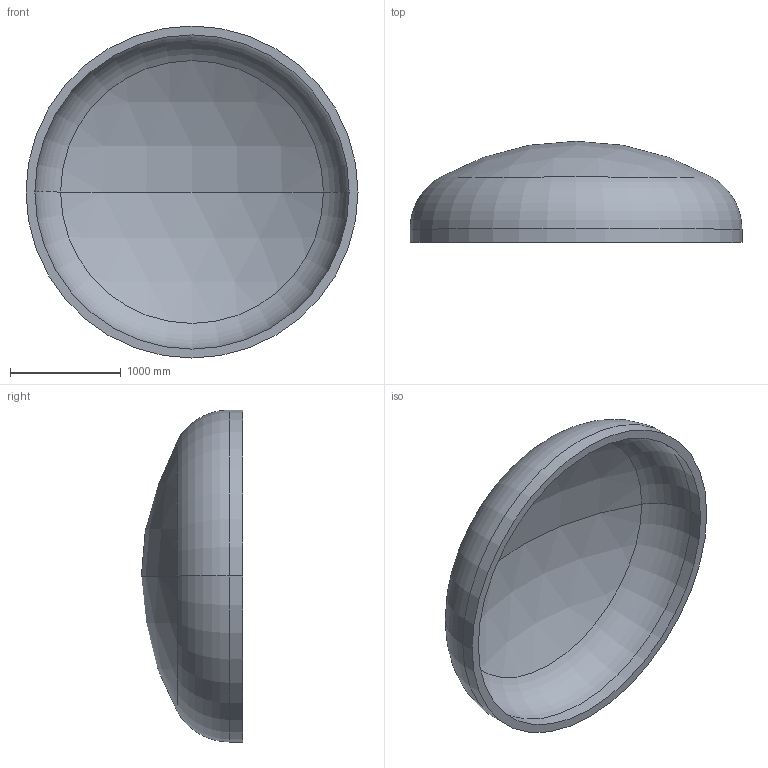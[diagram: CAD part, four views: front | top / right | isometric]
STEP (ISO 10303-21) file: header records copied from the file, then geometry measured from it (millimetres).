
FILE_DESCRIPTION (( 'STEP AP203' ), '1' );
FILE_NAME ('DIN 28013 Korbbogenform_-_Boden DIN 28013 - 3000 x 120 - I - s=80.step', '2016-07-01T18:00:55', ( '' ), ( '' ), 'SwSTEP 2.0', 'SolidWorks 2013', '' );
FILE_SCHEMA (( 'CONFIG_CONTROL_DESIGN' ));
Length unit declared in the file: millimetre
Products named in the file (1): DIN 28013 Korbbogenform_-_Boden DIN 28013 - 3000 x 120 - I - s=80
Bounding box: 3000 x 914.18 x 3000 mm (x, y, z)
Volume: 843715802.8 mm3; surface area: 21840168.3 mm2
Topology: 1 solids, 1 shells, 13 faces, 24 edges, 14 vertices
Faces by surface type: torus 4, cylinder 4, sphere 4, plane 1
Entity records: 407 total; most frequent: DIRECTION 72, CARTESIAN_POINT 52, ORIENTED_EDGE 48, AXIS2_PLACEMENT_3D 34, EDGE_CURVE 24, CIRCLE 20, VERTEX_POINT 14, EDGE_LOOP 14
